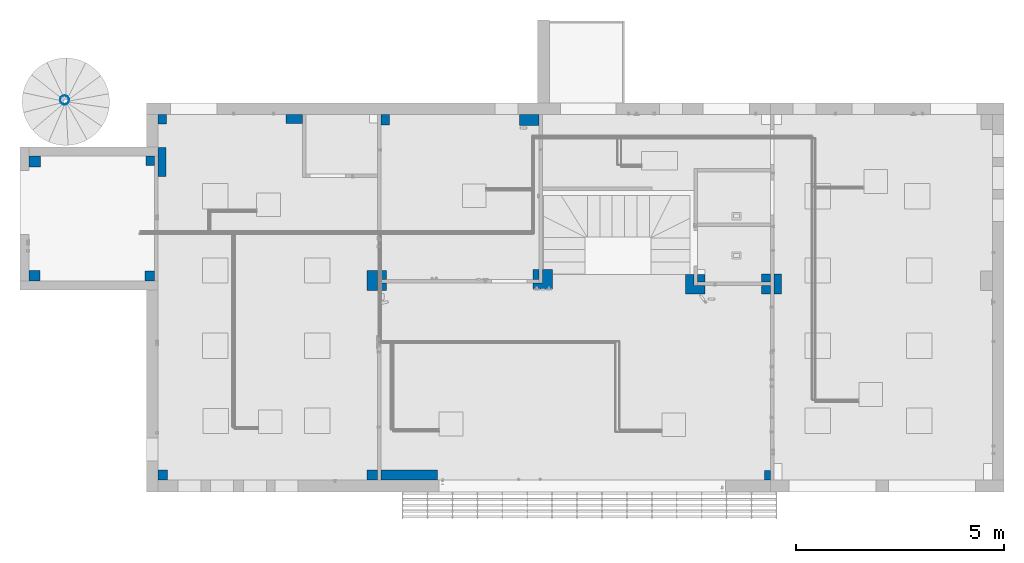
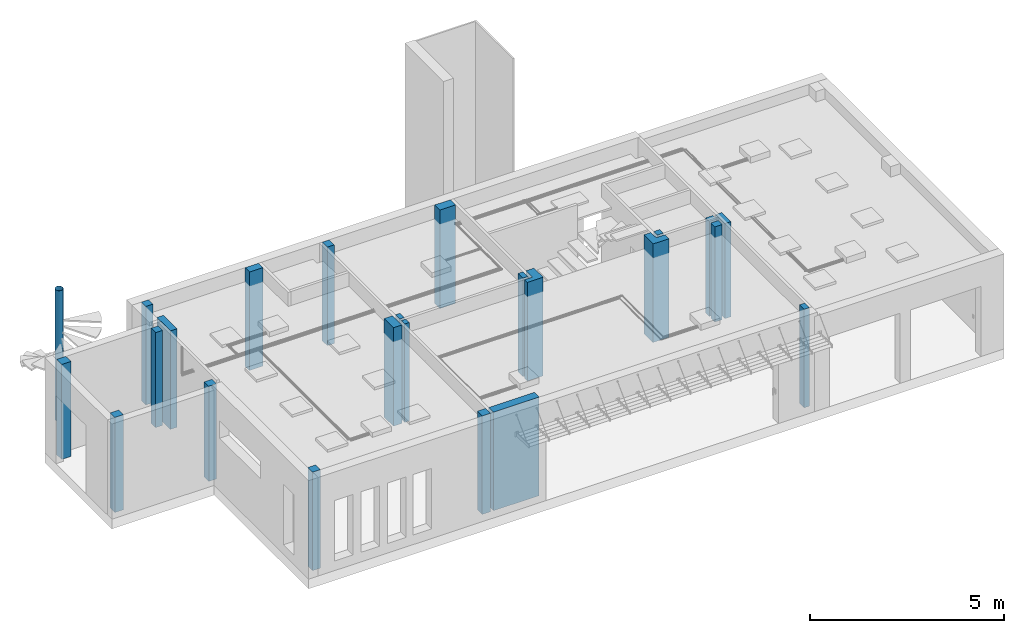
# One storey, part 1 of 24: 18 columns.
"""IFC2X3 building model written with IfcOpenShell, lengths in millimetres."""

from ifc_helpers import new_model, entity, si_unit, converted_unit, derived_unit, direction, frame, frame_2d, origin, origin_2d_with_axis, place, context, subcontext, project, spatial, polyline, rectangle, hollow_circle, outline, extrude, source, transform, mapped, material, type_object, type_shapes, element, save


model = new_model("IFC2X3")

# Units and contexts
model_context = context("Model", 3, precision=0.01, world=origin(), true_north=direction((6.123031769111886e-17, 1.0)))
body_context = subcontext(model_context, "Body", "Model", "MODEL_VIEW")
ifc_project = project(units=[si_unit("LENGTHUNIT", "METRE", prefix="MILLI"), si_unit("AREAUNIT", "SQUARE_METRE"), si_unit("VOLUMEUNIT", "CUBIC_METRE"), converted_unit("PLANEANGLEUNIT", "DEGREE", entity("IfcRatioMeasure", 0.017453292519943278), si_unit("PLANEANGLEUNIT", "RADIAN"), dimensions=[0, 0, 0, 0, 0, 0, 0]), si_unit("MASSUNIT", "GRAM", prefix="KILO"), derived_unit("MASSDENSITYUNIT", [(si_unit("MASSUNIT", "GRAM", prefix="KILO"), 1), (si_unit("LENGTHUNIT", "METRE"), -3)]), derived_unit("MOMENTOFINERTIAUNIT", [(si_unit("LENGTHUNIT", "METRE"), 4)]), si_unit("TIMEUNIT", "SECOND"), si_unit("FREQUENCYUNIT", "HERTZ"), si_unit("THERMODYNAMICTEMPERATUREUNIT", "DEGREE_CELSIUS"), derived_unit("THERMALTRANSMITTANCEUNIT", [(si_unit("MASSUNIT", "GRAM", prefix="KILO"), 1), (si_unit("THERMODYNAMICTEMPERATUREUNIT", "KELVIN"), -1), (si_unit("TIMEUNIT", "SECOND"), -3)]), derived_unit("VOLUMETRICFLOWRATEUNIT", [(si_unit("LENGTHUNIT", "METRE"), 3), (si_unit("TIMEUNIT", "SECOND"), -1)]), derived_unit("MASSFLOWRATEUNIT", [(si_unit("MASSUNIT", "GRAM", prefix="KILO"), 1), (si_unit("TIMEUNIT", "SECOND"), -1)]), derived_unit("ROTATIONALFREQUENCYUNIT", [(si_unit("TIMEUNIT", "SECOND"), -1)]), si_unit("ELECTRICCURRENTUNIT", "AMPERE"), si_unit("ELECTRICVOLTAGEUNIT", "VOLT"), si_unit("POWERUNIT", "WATT"), si_unit("FORCEUNIT", "NEWTON", prefix="KILO"), si_unit("ILLUMINANCEUNIT", "LUX"), si_unit("LUMINOUSFLUXUNIT", "LUMEN"), si_unit("LUMINOUSINTENSITYUNIT", "CANDELA"), derived_unit("USERDEFINED", [(si_unit("MASSUNIT", "GRAM", prefix="KILO"), -1), (si_unit("LENGTHUNIT", "METRE"), -2), (si_unit("TIMEUNIT", "SECOND"), 3), (si_unit("LUMINOUSFLUXUNIT", "LUMEN"), 1)]), derived_unit("SOUNDPOWERUNIT", [(si_unit("MASSUNIT", "GRAM", prefix="KILO"), 1), (si_unit("LENGTHUNIT", "METRE"), 2), (si_unit("TIMEUNIT", "SECOND"), -3)]), derived_unit("SOUNDPRESSUREUNIT", [(si_unit("MASSUNIT", "GRAM", prefix="KILO"), 1), (si_unit("LENGTHUNIT", "METRE"), -1), (si_unit("TIMEUNIT", "SECOND"), -2)]), derived_unit("LINEARVELOCITYUNIT", [(si_unit("LENGTHUNIT", "METRE"), 1), (si_unit("TIMEUNIT", "SECOND"), -1)]), si_unit("PRESSUREUNIT", "PASCAL"), derived_unit("USERDEFINED", [(si_unit("LENGTHUNIT", "METRE"), -2), (si_unit("MASSUNIT", "GRAM", prefix="KILO"), 1), (si_unit("TIMEUNIT", "SECOND"), -2)]), derived_unit("LINEARFORCEUNIT", [(si_unit("MASSUNIT", "GRAM", prefix="KILO"), 1), (si_unit("LENGTHUNIT", "METRE"), 1), (si_unit("TIMEUNIT", "SECOND"), -2), (si_unit("LENGTHUNIT", "METRE"), -1)]), derived_unit("PLANARFORCEUNIT", [(si_unit("MASSUNIT", "GRAM", prefix="KILO"), 1), (si_unit("LENGTHUNIT", "METRE"), 1), (si_unit("TIMEUNIT", "SECOND"), -2), (si_unit("LENGTHUNIT", "METRE"), -2)])], contexts=[model_context])

# Site, building, storey
site_placement = place(None, origin())
site = spatial("IfcSite", under=ifc_project, at=site_placement, Name="Default", CompositionType="ELEMENT")
building_placement = place(site_placement, origin())
building = spatial("IfcBuilding", under=site, at=building_placement, CompositionType="ELEMENT")
storey_placement = place(building_placement, origin())
storey = spatial("IfcBuildingStorey", under=building, at=storey_placement, Name="Level 1", CompositionType="ELEMENT", Elevation=0.0)

# Columns
ifc_material_1 = material(Name="FIBRAN gyps SUPER")
column_type_1 = type_object("IfcColumnType", Name="M_Rectangular Column:475 x 475mm:475 x 475mm : M_Rectangular Column:475 x 475mm", PredefinedType="COLUMN", material=ifc_material_1)
shared_shape_1 = source(origin(), body_context, "Body", "SweptSolid", [
    extrude(rectangle(XDim=217.4999999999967, YDim=140.4999999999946, at=frame_2d((6.394884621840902e-14, -2.7000623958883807e-13), x_axis=(1.0, 0.0))), frame((-3705.1057787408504, 1140.11724634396, 0.0), z_axis=(0.0, 0.0, 1.0), x_axis=(0.0, -1.0, 0.0)), (0.0, 0.0, 1.0), 3095.0000000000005),
    extrude(rectangle(XDim=475.00000000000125, YDim=252.50000000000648, at=frame_2d((-5.684341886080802e-14, 0.0), x_axis=(1.0, 0.0))), frame((-3983.6057787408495, 1011.3672463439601, 0.0), z_axis=(0.0, 0.0, 1.0), x_axis=(0.0, -1.0, 0.0)), (0.0, 0.0, 1.0), 3095.0000000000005),
    extrude(rectangle(XDim=175.5000000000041, YDim=140.4999999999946, at=frame_2d((7.105427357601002e-14, -2.7000623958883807e-13), x_axis=(1.0, 0.0))), frame((-3705.1057787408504, 861.617246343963, 0.0), z_axis=(0.0, 0.0, 1.0), x_axis=(0.0, -1.0, 0.0)), (0.0, 0.0, 1.0), 3095.0000000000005),
])
type_shapes(column_type_1, [shared_shape_1])
column_1_placement = place(storey_placement, origin())
element("IfcColumn", 1, at=column_1_placement, inside=storey, type_object=column_type_1, material=ifc_material_1, Name="M_Rectangular Column:475 x 475mm:475 x 475mm : M_Rectangular Column:475 x 475mm:475 x 475mm:475 x 475mm : M_Rectangular Column:475 x 475mm : M_Rectangular Column:475 x 475mm:475 x 475mm : M_Rectangular Column:475 x 475mm", ObjectType="M_Rectangular Column:475 x 475mm:475 x 475mm : M_Rectangular Column:475 x 475mm:475 x 475mm:475 x 475mm : M_Rectangular Column:475 x 475mm : M_Rectangular Column:475 x 475mm:475 x 475mm : M_Rectangular Column:475 x 475mm", context=body_context, shape_type="MappedRepresentation", body=[
    mapped(shared_shape_1, transform((0.0, 0.0, 0.0), scale=1.0)),
])
column_type_2 = type_object("IfcColumnType", Name="M_Rectangular Column:475 x 475mm:475 x 475mm : M_Rectangular Column:475 x 475mm", PredefinedType="COLUMN", material=ifc_material_1)
shared_shape_2 = source(origin(), body_context, "Body", "SweptSolid", [
    extrude(rectangle(XDim=251.16447344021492, YDim=149.393230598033, at=origin_2d_with_axis()), frame((-38.159163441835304, 1156.9494830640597, 0.0), z_axis=(0.0, 0.0, 1.0), x_axis=(0.0, -1.0, 0.0)), (0.0, 0.0, 1.0), 3095.0000000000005),
    extrude(outline(polyline([(63.77631562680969, -235.46441019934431), (205.61184218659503, -235.46441019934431), (205.61184218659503, 239.53558980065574), (-269.38815781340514, 239.53558980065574), (-269.38815781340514, -4.071179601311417), (63.77631562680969, -4.071179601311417), (63.77631562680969, -235.46441019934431)])), frame((122.60863145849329, 1013.14356197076, 0.0), z_axis=(0.0, 0.0, 1.0), x_axis=(0.0, -1.0, 0.0)), (0.0, 0.0, 1.0), 3095.0000000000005),
])
type_shapes(column_type_2, [shared_shape_2])
column_2_placement = place(storey_placement, origin())
element("IfcColumn", 2, at=column_2_placement, inside=storey, type_object=column_type_2, material=ifc_material_1, Name="M_Rectangular Column:475 x 475mm:475 x 475mm : M_Rectangular Column:475 x 475mm:475 x 475mm:475 x 475mm : M_Rectangular Column:475 x 475mm : M_Rectangular Column:475 x 475mm:475 x 475mm : M_Rectangular Column:475 x 475mm", ObjectType="M_Rectangular Column:475 x 475mm:475 x 475mm : M_Rectangular Column:475 x 475mm:475 x 475mm:475 x 475mm : M_Rectangular Column:475 x 475mm : M_Rectangular Column:475 x 475mm:475 x 475mm : M_Rectangular Column:475 x 475mm", context=body_context, shape_type="MappedRepresentation", body=[
    mapped(shared_shape_2, transform((0.0, 0.0, 0.0), scale=1.0)),
])
column_type_3 = type_object("IfcColumnType", Name="M_Rectangular Column:475 x 475mm:475 x 475mm : M_Rectangular Column:475 x 475mm", PredefinedType="COLUMN", material=ifc_material_1)
shared_shape_3 = source(origin(), body_context, "Body", "SweptSolid", [
    extrude(rectangle(XDim=186.86040869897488, YDim=181.63374866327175, at=frame_2d((-7.105427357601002e-14, 0.0), x_axis=(1.0, 0.0))), frame((3937.32452115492, 1067.85472296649, 0.0), z_axis=(0.0, 0.0, 1.0), x_axis=(0.0, -1.0, 0.0)), (0.0, 0.0, 1.0), 3095.0000000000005),
    extrude(outline(polyline([(-247.95346956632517, -228.78875044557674), (227.04653043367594, -228.78875044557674), (227.04653043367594, 246.21124955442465), (20.906939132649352, 246.21124955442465), (20.906939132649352, -17.422499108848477), (-247.95346956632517, -17.422499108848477), (-247.95346956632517, -228.78875044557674)])), frame((3781.9301459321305, 913.3314577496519, 0.0), z_axis=(0.0, 0.0, 1.0), x_axis=(0.0, -1.0, 0.0)), (0.0, 0.0, 1.0), 3095.0000000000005),
])
type_shapes(column_type_3, [shared_shape_3])
column_3_placement = place(storey_placement, origin())
element("IfcColumn", 3, at=column_3_placement, inside=storey, type_object=column_type_3, material=ifc_material_1, Name="M_Rectangular Column:475 x 475mm:475 x 475mm : M_Rectangular Column:475 x 475mm:475 x 475mm:475 x 475mm : M_Rectangular Column:475 x 475mm : M_Rectangular Column:475 x 475mm:475 x 475mm : M_Rectangular Column:475 x 475mm", ObjectType="M_Rectangular Column:475 x 475mm:475 x 475mm : M_Rectangular Column:475 x 475mm:475 x 475mm:475 x 475mm : M_Rectangular Column:475 x 475mm : M_Rectangular Column:475 x 475mm:475 x 475mm : M_Rectangular Column:475 x 475mm", context=body_context, shape_type="MappedRepresentation", body=[
    mapped(shared_shape_3, transform((0.0, 0.0, 0.0), scale=1.0)),
])
column_type_4 = type_object("IfcColumnType", Name="M_Rectangular Column:475 x 475mm:475 x 475mm : M_Rectangular Column:475 x 475mm", PredefinedType="COLUMN", material=ifc_material_1)
shared_shape_4 = source(origin(), body_context, "Body", "SweptSolid", [
    extrude(rectangle(XDim=475.00000000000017, YDim=177.49999999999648, at=frame_2d((5.684341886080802e-14, 0.0), x_axis=(1.0, 0.0))), frame((5776.46779323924, 925.0317197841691, 0.0), z_axis=(0.0, 0.0, 1.0), x_axis=(0.0, -1.0, 0.0)), (0.0, 0.0, 1.0), 2985.0),
    extrude(rectangle(XDim=188.1072011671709, YDim=215.50000000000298, at=frame_2d((-1.3500311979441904e-13, 0.0), x_axis=(1.0, 0.0))), frame((5497.96779323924, 1068.4781192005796, 0.0), z_axis=(0.0, 0.0, 1.0), x_axis=(0.0, -1.0, 0.0)), (0.0, 0.0, 1.0), 2985.0),
    extrude(rectangle(XDim=204.89279883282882, YDim=215.50000000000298, at=origin_2d_with_axis()), frame((5497.96779323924, 789.9781192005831, 0.0), z_axis=(0.0, 0.0, 1.0), x_axis=(0.0, -1.0, 0.0)), (0.0, 0.0, 1.0), 2985.0),
])
type_shapes(column_type_4, [shared_shape_4])
column_4_placement = place(storey_placement, origin())
element("IfcColumn", 4, at=column_4_placement, inside=storey, type_object=column_type_4, material=ifc_material_1, Name="M_Rectangular Column:475 x 475mm:475 x 475mm : M_Rectangular Column:475 x 475mm:475 x 475mm:475 x 475mm : M_Rectangular Column:475 x 475mm : M_Rectangular Column:475 x 475mm:475 x 475mm : M_Rectangular Column:475 x 475mm", ObjectType="M_Rectangular Column:475 x 475mm:475 x 475mm : M_Rectangular Column:475 x 475mm:475 x 475mm:475 x 475mm : M_Rectangular Column:475 x 475mm : M_Rectangular Column:475 x 475mm:475 x 475mm : M_Rectangular Column:475 x 475mm", context=body_context, shape_type="MappedRepresentation", body=[
    mapped(shared_shape_4, transform((0.0, 0.0, 0.0), scale=1.0)),
])
column_type_5 = type_object("IfcColumnType", Name="M_Rectangular Column:220 x 240mm 32396:220 x 240mm 32396 : M_Rectangular Column:220 x 240mm 32396", PredefinedType="COLUMN", material=ifc_material_1)
shared_shape_5 = source(origin(), body_context, "Body", "SweptSolid", [
    extrude(rectangle(XDim=232.00000000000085, YDim=208.0000000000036, at=frame_2d((-2.7000623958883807e-13, 5.400124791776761e-13), x_axis=(1.0, 0.0))), frame((-9331.33652342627, 3892.6770516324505, 0.0), z_axis=(0.0, 0.0, 1.0), x_axis=(0.0, -1.0, 0.0)), (0.0, 0.0, 1.0), 2985.0),
])
type_shapes(column_type_5, [shared_shape_5])
column_5_placement = place(storey_placement, origin())
element("IfcColumn", 5, at=column_5_placement, inside=storey, type_object=column_type_5, material=ifc_material_1, Name="M_Rectangular Column:220 x 240mm", ObjectType="M_Rectangular Column:220 x 240mm", context=body_context, shape_type="MappedRepresentation", body=[
    mapped(shared_shape_5, transform((0.0, 0.0, 0.0), scale=1.0)),
])
column_type_6 = type_object("IfcColumnType", Name="M_Rectangular Column:260 x 260mm 32366:260 x 260mm 32366 : M_Rectangular Column:260 x 260mm 32366", PredefinedType="COLUMN", material=ifc_material_1)
shared_shape_6 = source(origin(), body_context, "Body", "SweptSolid", [
    extrude(rectangle(XDim=241.99999999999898, YDim=256.99999999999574, at=frame_2d((-6.394884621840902e-14, -1.0800249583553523e-12), x_axis=(1.0, 0.0))), frame((-12116.8857974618, 1126.16151326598, 0.0), z_axis=(0.0, 0.0, 1.0), x_axis=(0.0, -1.0, 0.0)), (0.0, 0.0, 1.0), 2985.0),
])
type_shapes(column_type_6, [shared_shape_6])
column_6_placement = place(storey_placement, origin())
element("IfcColumn", 6, at=column_6_placement, inside=storey, type_object=column_type_6, material=ifc_material_1, Name="M_Rectangular Column:260 x 260mm", ObjectType="M_Rectangular Column:260 x 260mm", context=body_context, shape_type="MappedRepresentation", body=[
    mapped(shared_shape_6, transform((0.0, 0.0, 0.0), scale=1.0)),
])
column_type_7 = type_object("IfcColumnType", Name="M_Rectangular Column:475 x 475mm 32336:475 x 475mm 32336 : M_Rectangular Column:475 x 475mm 32336", PredefinedType="COLUMN", material=ifc_material_1)
shared_shape_7 = source(origin(), body_context, "Body", "SweptSolid", [
    extrude(rectangle(XDim=259.5000000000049, YDim=277.54927403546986, at=origin_2d_with_axis()), frame((-12106.611160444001, 3878.92705163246, 0.0), z_axis=(0.0, 0.0, 1.0), x_axis=(0.0, -1.0, 0.0)), (0.0, 0.0, 1.0), 2985.0),
])
type_shapes(column_type_7, [shared_shape_7])
column_7_placement = place(storey_placement, origin())
element("IfcColumn", 7, at=column_7_placement, inside=storey, type_object=column_type_7, material=ifc_material_1, Name="M_Rectangular Column:475 x 475mm", ObjectType="M_Rectangular Column:475 x 475mm", context=body_context, shape_type="MappedRepresentation", body=[
    mapped(shared_shape_7, transform((0.0, 0.0, 0.0), scale=1.0)),
])
column_type_8 = type_object("IfcColumnType", Name="M_Rectangular Column:260 x 260mm 32306:260 x 260mm 32306 : M_Rectangular Column:260 x 260mm 32306", PredefinedType="COLUMN", material=ifc_material_1)
shared_shape_8 = source(origin(), body_context, "Body", "SweptSolid", [
    extrude(rectangle(XDim=241.99999999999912, YDim=231.99999999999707, at=origin_2d_with_axis()), frame((-9029.33652342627, -3674.83848673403, 0.0), z_axis=(0.0, 0.0, 1.0), x_axis=(0.0, -1.0, 0.0)), (0.0, 0.0, 1.0), 3095.0000000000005),
])
type_shapes(column_type_8, [shared_shape_8])
column_8_placement = place(storey_placement, origin())
element("IfcColumn", 8, at=column_8_placement, inside=storey, type_object=column_type_8, material=ifc_material_1, Name="M_Rectangular Column:260 x 260mm", ObjectType="M_Rectangular Column:260 x 260mm", context=body_context, shape_type="MappedRepresentation", body=[
    mapped(shared_shape_8, transform((0.0, 0.0, 0.0), scale=1.0)),
])
column_type_9 = type_object("IfcColumnType", Name="M_Rectangular Column:260 x 260mm 32276:260 x 260mm 32276 : M_Rectangular Column:260 x 260mm 32276", PredefinedType="COLUMN", material=ifc_material_1)
shared_shape_9 = source(origin(), body_context, "Body", "SweptSolid", [
    extrude(rectangle(XDim=247.87585641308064, YDim=249.99999999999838, at=frame_2d((2.7000623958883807e-13, 0.0), x_axis=(1.0, 0.0))), frame((-3982.35577874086, -3671.90055852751, 0.0), z_axis=(0.0, 0.0, 1.0), x_axis=(0.0, -1.0, 0.0)), (0.0, 0.0, 1.0), 3095.0000000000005),
])
type_shapes(column_type_9, [shared_shape_9])
column_9_placement = place(storey_placement, origin())
element("IfcColumn", 9, at=column_9_placement, inside=storey, type_object=column_type_9, material=ifc_material_1, Name="M_Rectangular Column:260 x 260mm", ObjectType="M_Rectangular Column:260 x 260mm", context=body_context, shape_type="MappedRepresentation", body=[
    mapped(shared_shape_9, transform((0.0, 0.0, 0.0), scale=1.0)),
])
column_type_10 = type_object("IfcColumnType", Name="M_Rectangular Column:220 x 240mm 32246:220 x 240mm 32246 : M_Rectangular Column:220 x 240mm 32246", PredefinedType="COLUMN", material=ifc_material_1)
shared_shape_10 = source(origin(), body_context, "Body", "SweptSolid", [
    extrude(rectangle(XDim=229.12414358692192, YDim=209.886021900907, at=frame_2d((0.0, -5.471179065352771e-13), x_axis=(1.0, 0.0))), frame((-9040.39351247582, 4896.59944147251, 0.0), z_axis=(0.0, 0.0, 1.0), x_axis=(0.0, -1.0, 0.0)), (0.0, 0.0, 1.0), 3095.0000000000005),
])
type_shapes(column_type_10, [shared_shape_10])
column_10_placement = place(storey_placement, origin())
element("IfcColumn", 10, at=column_10_placement, inside=storey, type_object=column_type_10, material=ifc_material_1, Name="M_Rectangular Column:220 x 240mm", ObjectType="M_Rectangular Column:220 x 240mm", context=body_context, shape_type="MappedRepresentation", body=[
    mapped(shared_shape_10, transform((0.0, 0.0, 0.0), scale=1.0)),
])
column_type_11 = type_object("IfcColumnType", Name="M_Rectangular Column:475 x 475mm 32216:475 x 475mm 32216 : M_Rectangular Column:475 x 475mm 32216", PredefinedType="COLUMN", material=ifc_material_1)
shared_shape_11 = source(origin(), body_context, "Body", "SweptSolid", [
    extrude(rectangle(XDim=224.6241435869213, YDim=397.4999999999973, at=frame_2d((2.7000623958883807e-13, -5.400124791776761e-13), x_axis=(1.0, 0.0))), frame((-5864.20050152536, 4898.8494414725, 0.0), z_axis=(0.0, 0.0, 1.0), x_axis=(0.0, -1.0, 0.0)), (0.0, 0.0, 1.0), 3095.0000000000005),
])
type_shapes(column_type_11, [shared_shape_11])
column_11_placement = place(storey_placement, origin())
element("IfcColumn", 11, at=column_11_placement, inside=storey, type_object=column_type_11, material=ifc_material_1, Name="M_Rectangular Column:475 x 475mm", ObjectType="M_Rectangular Column:475 x 475mm", context=body_context, shape_type="MappedRepresentation", body=[
    mapped(shared_shape_11, transform((0.0, 0.0, 0.0), scale=1.0)),
])
column_type_12 = type_object("IfcColumnType", Name="M_Rectangular Column:260 x 260mm 32186:260 x 260mm 32186 : M_Rectangular Column:260 x 260mm 32186", PredefinedType="COLUMN", material=ifc_material_1)
shared_shape_12 = source(origin(), body_context, "Body", "SweptSolid", [
    extrude(rectangle(XDim=259.1241435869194, YDim=209.99999999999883, at=origin_2d_with_axis()), frame((-3670.35577874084, 4881.59944147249, 0.0), z_axis=(0.0, 0.0, 1.0), x_axis=(0.0, -1.0, 0.0)), (0.0, 0.0, 1.0), 3095.0000000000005),
])
type_shapes(column_type_12, [shared_shape_12])
column_12_placement = place(storey_placement, origin())
element("IfcColumn", 12, at=column_12_placement, inside=storey, type_object=column_type_12, material=ifc_material_1, Name="M_Rectangular Column:260 x 260mm", ObjectType="M_Rectangular Column:260 x 260mm", context=body_context, shape_type="MappedRepresentation", body=[
    mapped(shared_shape_12, transform((0.0, 0.0, 0.0), scale=1.0)),
])
column_type_13 = type_object("IfcColumnType", Name="M_Rectangular Column:475 x 475mm 32156:475 x 475mm 32156 : M_Rectangular Column:475 x 475mm 32156", PredefinedType="COLUMN", material=ifc_material_1)
shared_shape_13 = source(origin(), body_context, "Body", "SweptSolid", [
    extrude(rectangle(XDim=266.6241435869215, YDim=471.393230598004, at=frame_2d((-2.7000623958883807e-13, 0.0), x_axis=(1.0, 0.0))), frame((-199.15916344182, 4877.84944147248, 0.0), z_axis=(0.0, 0.0, 1.0), x_axis=(0.0, -1.0, 0.0)), (0.0, 0.0, 1.0), 3095.0000000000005),
])
type_shapes(column_type_13, [shared_shape_13])
column_13_placement = place(storey_placement, origin())
element("IfcColumn", 13, at=column_13_placement, inside=storey, type_object=column_type_13, material=ifc_material_1, Name="M_Rectangular Column:475 x 475mm", ObjectType="M_Rectangular Column:475 x 475mm", context=body_context, shape_type="MappedRepresentation", body=[
    mapped(shared_shape_13, transform((0.0, 0.0, 0.0), scale=1.0)),
])
column_type_14 = type_object("IfcColumnType", Name="M_Rectangular Column:220 x 240mm:220 x 240mm : M_Rectangular Column:220 x 240mm", PredefinedType="COLUMN", material=ifc_material_1)
shared_shape_14 = source(origin(), body_context, "Body", "SweptSolid", [
    extrude(rectangle(XDim=237.8758564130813, YDim=149.9999999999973, at=frame_2d((0.0, -5.400124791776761e-13), x_axis=(1.0, 0.0))), frame((5530.7177932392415, -3676.90055852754, 0.0), z_axis=(0.0, 0.0, 1.0), x_axis=(0.0, -1.0, 0.0)), (0.0, 0.0, 1.0), 3095.0000000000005),
])
type_shapes(column_type_14, [shared_shape_14])
column_14_placement = place(storey_placement, origin())
element("IfcColumn", 14, at=column_14_placement, inside=storey, type_object=column_type_14, material=ifc_material_1, Name="M_Rectangular Column:220 x 240mm", ObjectType="M_Rectangular Column:220 x 240mm", context=body_context, shape_type="MappedRepresentation", body=[
    mapped(shared_shape_14, transform((0.0, 0.0, 0.0), scale=1.0)),
])
ifc_material_2 = material(Name="PAINT inside 31636")
column_type_15 = type_object("IfcColumnType", Name="M_Rectangular Column:My toixio 200x700 mm 32035:My toixio 200x700 mm 32035 : M_Rectangular Column:My toixio 200x700 mm 32035", PredefinedType="COLUMN", material=ifc_material_2)
shared_shape_15 = source(origin(), body_context, "Body", "SweptSolid", [
    extrude(rectangle(XDim=700.0000000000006, YDim=191.99999999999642, at=frame_2d((-2.8421709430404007e-13, -5.400124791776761e-13), x_axis=(1.0, 0.0))), frame((-9049.336523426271, 3866.67705163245, 0.0), z_axis=(0.0, 0.0, 1.0), x_axis=(0.0, -1.0, 0.0)), (0.0, 0.0, 1.0), 3095.0000000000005),
])
type_shapes(column_type_15, [shared_shape_15])
column_15_placement = place(storey_placement, origin())
element("IfcColumn", 15, at=column_15_placement, inside=storey, type_object=column_type_15, material=ifc_material_2, Name="M_Rectangular Column:My toixio 200x700 mm", ObjectType="M_Rectangular Column:My toixio 200x700 mm", context=body_context, shape_type="MappedRepresentation", body=[
    mapped(shared_shape_15, transform((0.0, 0.0, 0.0), scale=1.0)),
])
ifc_material_3 = material(Name="Gypsum Wall Board")
column_type_16 = type_object("IfcColumnType", Name="M_Rectangular Column:My toixio 300 x 1400 m:My toixio 300 x 1400 m : M_Rectangular Column:My toixio 300 x 1400 m", PredefinedType="COLUMN", material=ifc_material_3)
shared_shape_16 = source(origin(), body_context, "Body", "SweptSolid", [
    extrude(rectangle(XDim=247.87585641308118, YDim=1359.9999999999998, at=frame_2d((0.0, 1.1368683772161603e-13), x_axis=(1.0, 0.0))), frame((-3095.3557787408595, -3671.90055852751, 0.0), z_axis=(0.0, 0.0, 1.0), x_axis=(0.0, -1.0, 0.0)), (0.0, 0.0, 1.0), 3095.0000000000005),
])
type_shapes(column_type_16, [shared_shape_16])
column_16_placement = place(storey_placement, origin())
element("IfcColumn", 16, at=column_16_placement, inside=storey, type_object=column_type_16, material=ifc_material_3, Name="M_Rectangular Column:My toixio 300 x 1400 m", ObjectType="M_Rectangular Column:My toixio 300 x 1400 m", context=body_context, shape_type="MappedRepresentation", body=[
    mapped(shared_shape_16, transform((0.0, 0.0, 0.0), scale=1.0)),
])
ifc_material_4 = material(Name="Polished Steel")
column_type_17 = type_object("IfcColumnType", Name="Circular Hollow Sections-Column:TRON219x6.3:TRON219x6.3 : Circular Hollow Sections-Column:TRON219x6.3", PredefinedType="COLUMN", material=ifc_material_4)
shared_shape_17 = source(origin(), body_context, "Body", "SweptSolid", [
    extrude(hollow_circle(Radius=109.55, WallThickness=6.299999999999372, at=frame_2d((0.0, -1.7698290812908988e-13), x_axis=(1.0, 0.0))), origin(), (0.0, 0.0, 1.0), 4099.99999999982),
])
type_shapes(column_type_17, [shared_shape_17])
column_17_placement = place(storey_placement, frame((-11392.3775712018, 5357.63168325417, 0.0)))
element("IfcColumn", 17, at=column_17_placement, inside=storey, type_object=column_type_17, material=ifc_material_4, Name="Circular Hollow Sections-Column:TRON219x6.3", ObjectType="Circular Hollow Sections-Column:TRON219x6.3", context=body_context, shape_type="MappedRepresentation", body=[
    mapped(shared_shape_17, transform((0.0, 0.0, 0.0), scale=1.0)),
])
column_type_18 = type_object("IfcColumnType", Name="M_Rectangular Column:260 x 260mm 31926:260 x 260mm 31926 : M_Rectangular Column:260 x 260mm 31926", PredefinedType="COLUMN", material=ifc_material_1)
shared_shape_18 = source(origin(), body_context, "Body", "SweptSolid", [
    extrude(rectangle(XDim=233.5155383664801, YDim=230.00000000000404, at=origin_2d_with_axis()), frame((-9342.33652342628, 1121.91928244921, 0.0), z_axis=(0.0, 0.0, 1.0), x_axis=(0.0, -1.0, 0.0)), (0.0, 0.0, 1.0), 2985.0),
])
type_shapes(column_type_18, [shared_shape_18])
column_18_placement = place(storey_placement, origin())
element("IfcColumn", 18, at=column_18_placement, inside=storey, type_object=column_type_18, material=ifc_material_1, Name="M_Rectangular Column:260 x 260mm", ObjectType="M_Rectangular Column:260 x 260mm", context=body_context, shape_type="MappedRepresentation", body=[
    mapped(shared_shape_18, transform((0.0, 0.0, 0.0), scale=1.0)),
])

save(model, "model.ifc")
